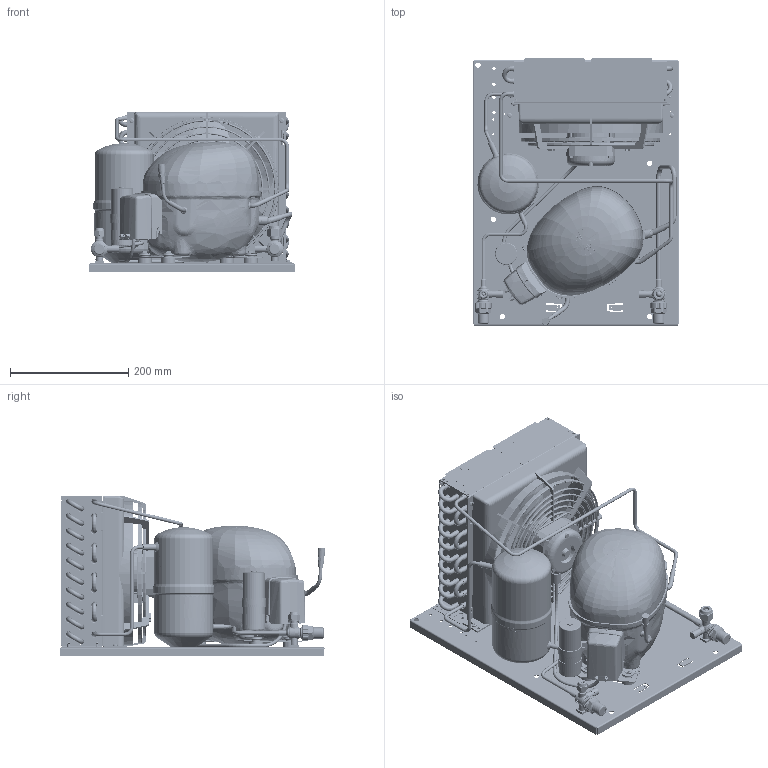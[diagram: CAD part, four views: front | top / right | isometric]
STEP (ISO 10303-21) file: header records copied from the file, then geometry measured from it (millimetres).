
FILE_DESCRIPTION(/* description */ ('Unknown'),/* implementation_level */ '2;1');
FILE_NAME(/* name */ '2298-0050',/* time_stamp */ '2021-12-15T09:23:28+01:00',/* author */ ('Unknown'),/* organization */ ('Unknown'),/* preprocessor_version */ 'ST-DEVELOPER v16.7',/* originating_system */ 'Solid Edge',/* authorisation */ 'Unknown');
FILE_SCHEMA (('AUTOMOTIVE_DESIGN {1 0 10303 214 3 1 1}'));
Length unit declared in the file: millimetre
Products named in the file (43): 2298-0050; 92505122_oa_0; a230-28; 84DM8X6.9XXESRF00; NLE10MF.2-A-CSIR; 84fm8x12xxxteff00; cg230n; 100_200vs00; aa707710x; 6072_23M8; 6062_22M6; 84v1.8x35xxcopf00; 8392_A; 84RM10X21XXPIAF00; sc18cl-a-csr_piedino; 7210-0003; 7010_22; 7560_2; 7560_3; 7030_3m10; 84a4.2x9.5xtbcf01; 99000082_secop; 84t4.8x8xxxtcca00_oa_1; 84t4.8x8xxxtcca00_oa_2; 84t4.8x8xxxtcca00_oa_3; 84t4.8x8xxxtcca00_oa_4; 680063713; 680063695; 84dm4x3.6xxesrf00; 99510255_Curva120°; 8351_2; 99510255_Tubo_Curva120°; 1030240f70; r50017306; r50017307; r59700283; 2990210; r50017301; r50017308; 99000082_SECOP_F-GAS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
Assembly tree (89 placements, depth 3):
  2298-0050
    92505122_oa_0
    a230-28
    84DM8X6.9XXESRF00
    NLE10MF.2-A-CSIR
    84fm8x12xxxteff00  x2
    cg230n
    100_200vs00
    aa707710x
    6072_23M8
    6062_22M6
    84v1.8x35xxcopf00  x4
    8392_A  x3
    84RM10X21XXPIAF00  x4
    sc18cl-a-csr_piedino  x4
    7210-0003  x2
    7010_22
    7560_2
    7560_3
    7030_3m10
    84a4.2x9.5xtbcf01  x4
    99000082_secop
    84t4.8x8xxxtcca00_oa_1
    84t4.8x8xxxtcca00_oa_2
    84t4.8x8xxxtcca00_oa_3
    84t4.8x8xxxtcca00_oa_4
    680063713
    680063695
    84dm4x3.6xxesrf00  x4
    99510255_Curva120°
      8351_2
      99510255_Tubo_Curva120°
      8392_A
    1030240f70
      r50017306
      r50017307
      r59700283  x15
      2990210  x14
      r50017301
      r50017308
    99000082_SECOP_F-GAS
    2298-0050_CAVO_VENTOLA
    680065422
    680082432
Bounding box: 350 x 452 x 272.12 mm (x, y, z)
Volume: 5192707.3 mm3; surface area: 2309821.8 mm2
Topology: 87 solids, 91 shells, 8465 faces, 21645 edges, 13966 vertices
Faces by surface type: plane 4910, cylinder 1571, bspline 783, torus 624, cone 475, sphere 102
Full cylindrical faces by diameter (mm): 1 x4, 1.2 x4, 1.8 x20, 2.2 x8, 2.31 x5, 2.7 x4, 3 x10, 3.2 x1, 3.242 x4, 3.3 x2, 3.5 x16, 3.6 x4, 3.7 x4, 3.85 x2, 4 x14, 4.1 x1, 4.2 x19, 4.3 x1, 4.4 x4, 4.5 x8, 4.6 x1, 4.66 x4, 4.7 x4, 5 x22, 5.2 x1, 5.4 x2, 5.5 x18, 5.6 x1, 5.9 x1, 6 x22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
Entity records: 317503 total; most frequent: CARTESIAN_POINT 115023, ORIENTED_EDGE 37626, DIRECTION 29501, EDGE_CURVE 18813, VERTEX_POINT 12696, AXIS2_PLACEMENT_3D 10773, FACE_BOUND 10027, EDGE_LOOP 10025
